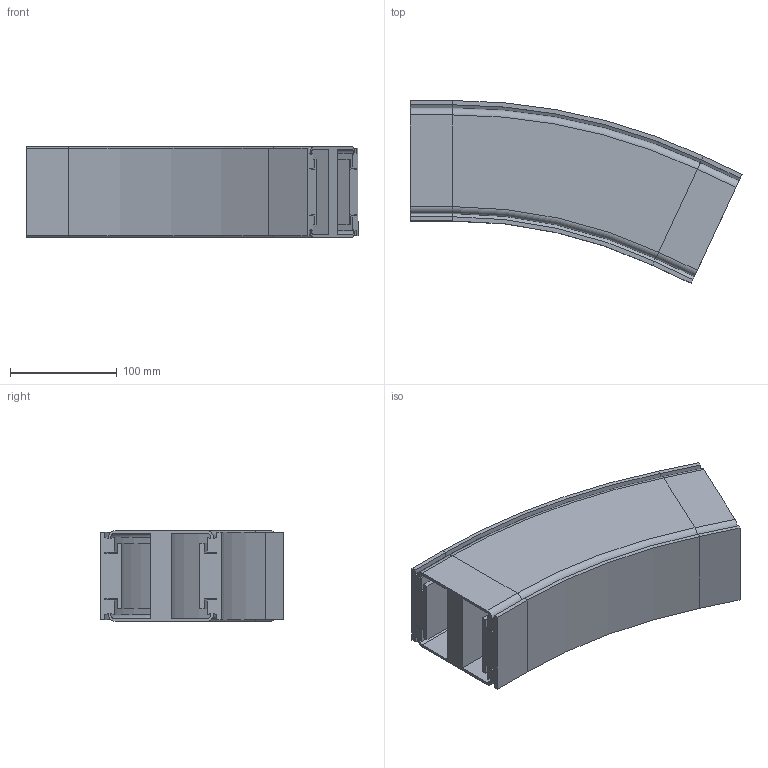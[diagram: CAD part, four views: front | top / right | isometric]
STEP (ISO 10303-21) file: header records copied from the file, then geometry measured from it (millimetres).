
FILE_DESCRIPTION (( 'STEP AP214' ), '1' );
FILE_NAME ('VC.85 Verticale bochtsectie.R500 25.STEP', '2017-02-08T08:13:13', ( '' ), ( '' ), 'SwSTEP 2.0', 'SolidWorks 2016', '' );
FILE_SCHEMA (( 'AUTOMOTIVE_DESIGN' ));
Length unit declared in the file: millimetre
Products named in the file (1): VC.85 Verticale bochtsectie.R500 25
Bounding box: 311.44 x 171.46 x 85 mm (x, y, z)
Volume: 1421396.9 mm3; surface area: 334149.8 mm2
Topology: 1 solids, 1 shells, 206 faces, 476 edges, 272 vertices
Faces by surface type: plane 144, cylinder 46, cone 8, torus 8
Entity records: 5674 total; most frequent: DIRECTION 990, CARTESIAN_POINT 955, ORIENTED_EDGE 952, EDGE_CURVE 476, VECTOR 376, LINE 376, AXIS2_PLACEMENT_3D 307, VERTEX_POINT 272
